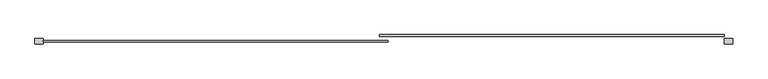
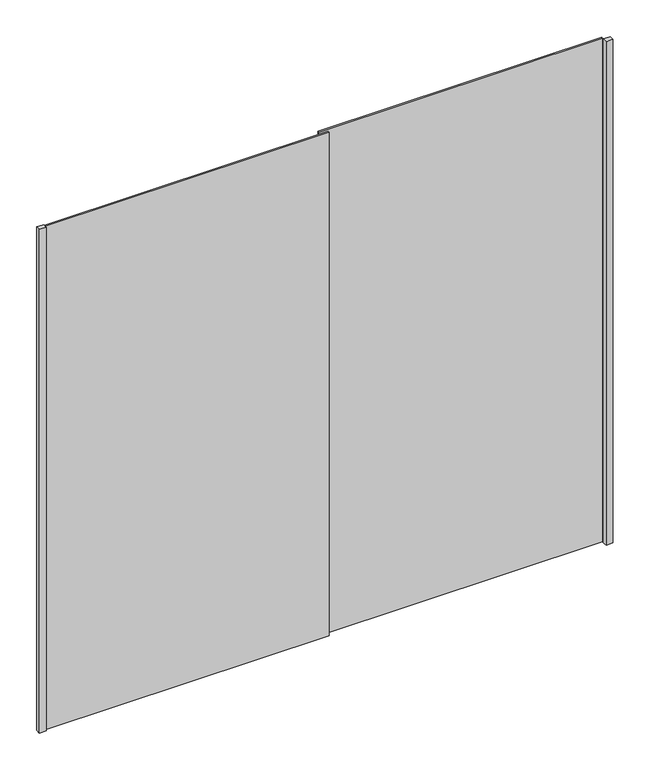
"""IFC4 building model written with IfcOpenShell, lengths in millimetres: furniture geometry, Puerta Closet corre 2 hojas : Puerta corrdiza 2 hojas PCLE-03."""

from ifc_helpers import new_model, si_unit, origin, origin_with_axes, place, context, project, spatial, polyline, outline, extrude, source, transform, mapped, element, save


def furniture_70a1527a(model_context):
    return source(origin(), model_context, "Body", "SweptSolid", [
        extrude(outline(polyline([(700.0, 80.0), (670.0, 80.0), (670.0, 100.0), (700.0, 100.0), (700.0, 80.0)])), origin_with_axes(), (0.0, 0.0, 1.0), 2300.0),
        extrude(outline(polyline([(670.0, 106.6666667), (-555.0, 106.6666667), (-555.0, 113.3333333), (670.0, 113.3333333), (670.0, 106.6666667)])), origin_with_axes(), (0.0, 0.0, 1.0), 2300.0),
        extrude(outline(polyline([(-525.0, 86.6666667), (-1750.0, 86.6666667), (-1750.0, 93.3333333), (-525.0, 93.3333333), (-525.0, 86.6666667)])), origin_with_axes(), (0.0, 0.0, 1.0), 2300.0),
        extrude(outline(polyline([(-1780.0, 80.0), (-1780.0, 100.0), (-1750.0, 100.0), (-1750.0, 80.0), (-1780.0, 80.0)])), origin_with_axes(), (0.0, 0.0, 1.0), 2300.0),
    ])


if __name__ == "__main__":
    model = new_model("IFC4")
    model_context = context("Model", 3, world=origin())
    ifc_project = project(units=[si_unit("LENGTHUNIT", "METRE", prefix="MILLI")], contexts=[model_context])
    site = spatial("IfcSite", under=ifc_project)
    building = spatial("IfcBuilding", under=site)
    placement = place(None, origin())
    furniture_shape = furniture_70a1527a(model_context)
    element("IfcFurniture", 1, ObjectType="Puerta Closet corre 2 hojas : Puerta corrdiza 2 hojas PCLE-03", at=placement, inside=building, context=model_context, shape_type="MappedRepresentation", body=[
        mapped(furniture_shape, transform((0.0, 0.0, 0.0), x_axis=(1.0, 0.0, 0.0), y_axis=(0.0, 1.0, 0.0), z_axis=(0.0, 0.0, 1.0))),
    ])
    save(model, "model.ifc")
